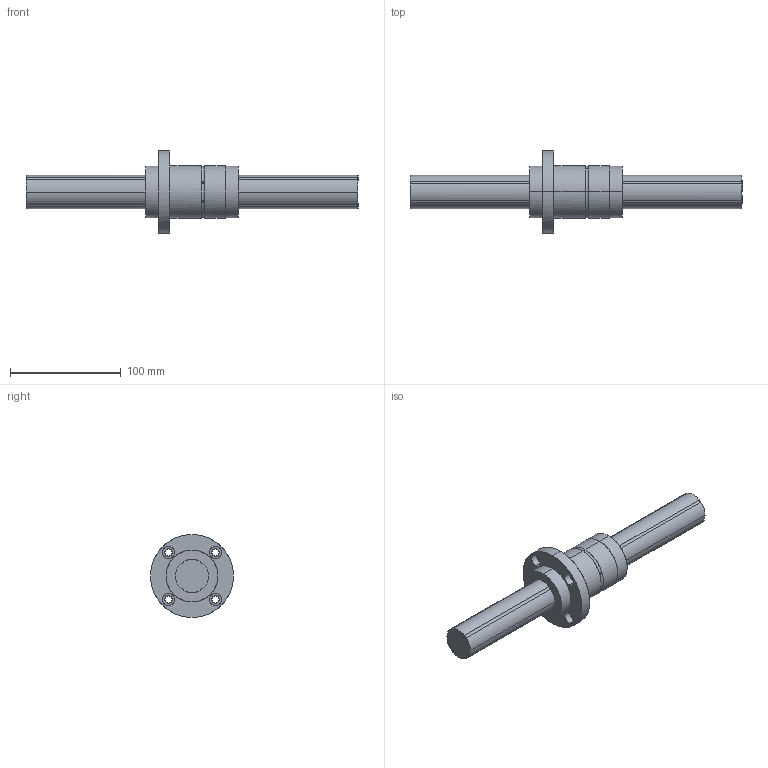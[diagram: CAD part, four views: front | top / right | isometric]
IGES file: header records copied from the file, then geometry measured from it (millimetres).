
Global section: file name: No Iges File Name specified; native system: AutoDesk Inventor R11.0; preprocessor: AutoDesk Inventor Iges Exporter R11.0; author: No Author specified; organization: No Organization specified; date: 20150223.133248; units: millimetre
Bounding box: 300 x 75 x 75 mm (x, y, z)
Surface area: 59962.4 mm2 (no closed solid volume)
Topology: 0 solids, 0 shells, 69 faces, 486 edges, 486 vertices
Faces by surface type: bspline 69
